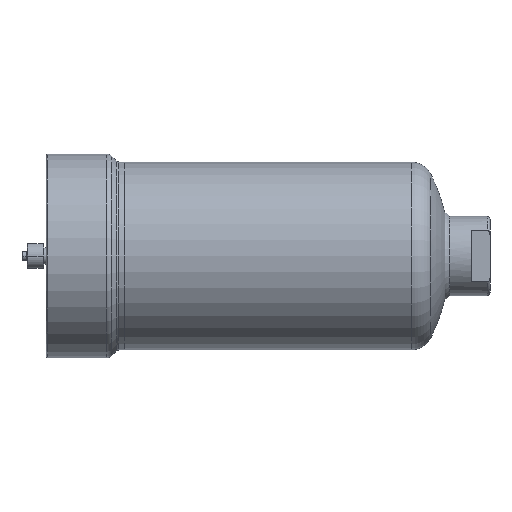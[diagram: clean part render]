
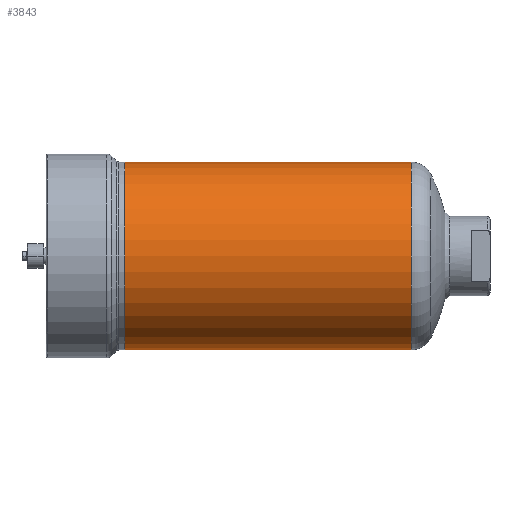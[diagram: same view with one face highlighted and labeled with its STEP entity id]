
A CAD part, left-side view. The second image highlights one B-rep face of the part: STEP entity #3843.
In plain terms, the highlighted cylindrical face has radius 64.5 mm (diameter 129 mm), a partial arc.
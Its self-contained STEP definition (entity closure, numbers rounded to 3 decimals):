
#19 = DIRECTION ( 'NONE',  ( 0., 0., -1. ) ) ;
#110 = ORIENTED_EDGE ( 'NONE', *, *, #5567, .F. ) ;
#174 = DIRECTION ( 'NONE',  ( 0., 1., 0. ) ) ;
#328 = EDGE_CURVE ( 'NONE', #4098, #4403, #6549, .T. ) ;
#452 = LINE ( 'NONE', #8016, #7452 ) ;
#746 = EDGE_CURVE ( 'NONE', #3293, #4403, #452, .T. ) ;
#872 = AXIS2_PLACEMENT_3D ( 'NONE', #3306, #7588, #1315 ) ;
#931 = CARTESIAN_POINT ( 'NONE',  ( 0., 250.96, -64.5 ) ) ;
#1215 = VERTEX_POINT ( 'NONE', #2024 ) ;
#1315 = DIRECTION ( 'NONE',  ( 0., 0., -1. ) ) ;
#1351 = CARTESIAN_POINT ( 'NONE',  ( 0., 29.96, 64.5 ) ) ;
#2024 = CARTESIAN_POINT ( 'NONE',  ( 0., 250.96, 64.5 ) ) ;
#3293 = VERTEX_POINT ( 'NONE', #931 ) ;
#3306 = CARTESIAN_POINT ( 'NONE',  ( 0., 53.99, 0. ) ) ;
#3843 = ADVANCED_FACE ( 'NONE', ( #6343 ), #3909, .T. ) ;
#3886 = ORIENTED_EDGE ( 'NONE', *, *, #746, .T. ) ;
#3909 = CYLINDRICAL_SURFACE ( 'NONE', #5929, 64.5 ) ;
#4098 = VERTEX_POINT ( 'NONE', #7793 ) ;
#4198 = EDGE_LOOP ( 'NONE', ( #5521, #110, #3886, #5250 ) ) ;
#4325 = DIRECTION ( 'NONE',  ( 0., -1., 0. ) ) ;
#4403 = VERTEX_POINT ( 'NONE', #6078 ) ;
#4999 = AXIS2_PLACEMENT_3D ( 'NONE', #5223, #174, #6011 ) ;
#5100 = EDGE_CURVE ( 'NONE', #1215, #4098, #5189, .T. ) ;
#5147 = DIRECTION ( 'NONE',  ( 0., -1., 0. ) ) ;
#5189 = LINE ( 'NONE', #1351, #5415 ) ;
#5223 = CARTESIAN_POINT ( 'NONE',  ( 0., 250.96, 0. ) ) ;
#5250 = ORIENTED_EDGE ( 'NONE', *, *, #328, .F. ) ;
#5415 = VECTOR ( 'NONE', #7579, 1000. ) ;
#5521 = ORIENTED_EDGE ( 'NONE', *, *, #5100, .F. ) ;
#5567 = EDGE_CURVE ( 'NONE', #3293, #1215, #8166, .T. ) ;
#5929 = AXIS2_PLACEMENT_3D ( 'NONE', #6425, #5147, #19 ) ;
#6011 = DIRECTION ( 'NONE',  ( 0., 0., 1. ) ) ;
#6078 = CARTESIAN_POINT ( 'NONE',  ( 0., 53.99, -64.5 ) ) ;
#6343 = FACE_OUTER_BOUND ( 'NONE', #4198, .T. ) ;
#6425 = CARTESIAN_POINT ( 'NONE',  ( 0., 29.96, 0. ) ) ;
#6549 = CIRCLE ( 'NONE', #872, 64.5 ) ;
#7452 = VECTOR ( 'NONE', #4325, 1000. ) ;
#7579 = DIRECTION ( 'NONE',  ( 0., -1., 0. ) ) ;
#7588 = DIRECTION ( 'NONE',  ( 0., -1., 0. ) ) ;
#7793 = CARTESIAN_POINT ( 'NONE',  ( 0., 53.99, 64.5 ) ) ;
#8016 = CARTESIAN_POINT ( 'NONE',  ( 0., 29.96, -64.5 ) ) ;
#8166 = CIRCLE ( 'NONE', #4999, 64.5 ) ;
